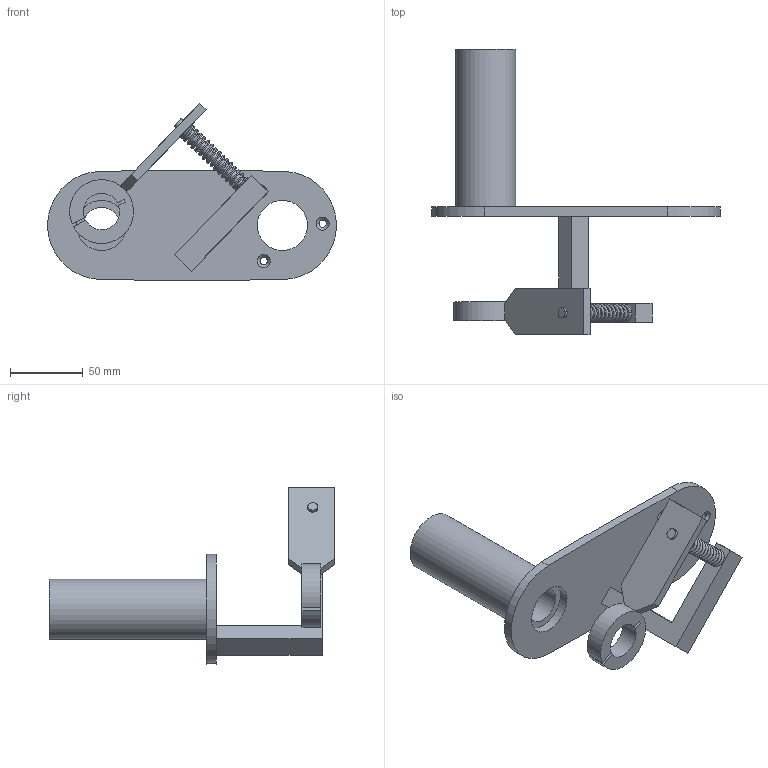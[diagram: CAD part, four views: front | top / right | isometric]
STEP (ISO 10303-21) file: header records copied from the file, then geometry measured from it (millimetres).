
FILE_DESCRIPTION(/* description */ (''),/* implementation_level */ '2;1');
FILE_NAME(/* name */ 'e44b918d-6f87-4001-baeb-cbd2aa05e1b3.stp',/* time_stamp */ '2026-04-28T15:25:31Z',/* author */ (''),/* organization */ (''),/* preprocessor_version */ 'ST-DEVELOPER v20.1',/* originating_system */ 'Autodesk Translation Framework v15.8.0.0',/* authorisation */ '');
FILE_SCHEMA (('AUTOMOTIVE_DESIGN { 1 0 10303 214 3 1 1 }'));
Length unit declared in the file: millimetre
Products named in the file (2): Bracket-1; 94125K21_Compression Springs
Assembly tree (1 placements, depth 2):
  Bracket-1
    94125K21_Compression Springs
Bounding box: 199 x 196.5 x 121.83 mm (x, y, z)
Volume: 229482 mm3; surface area: 76022 mm2
Topology: 4 solids, 4 shells, 58 faces, 127 edges, 82 vertices
Faces by surface type: plane 32, cylinder 17, bspline 6, cone 3
Full cylindrical faces by diameter (mm): 5 x3, 7 x3, 25 x1, 34.5 x2, 41.5 x1
Entity records: 8846 total; most frequent: CARTESIAN_POINT 7488, DIRECTION 274, ORIENTED_EDGE 254, EDGE_CURVE 127, AXIS2_PLACEMENT_3D 100, VERTEX_POINT 82, EDGE_LOOP 75, LINE 74
